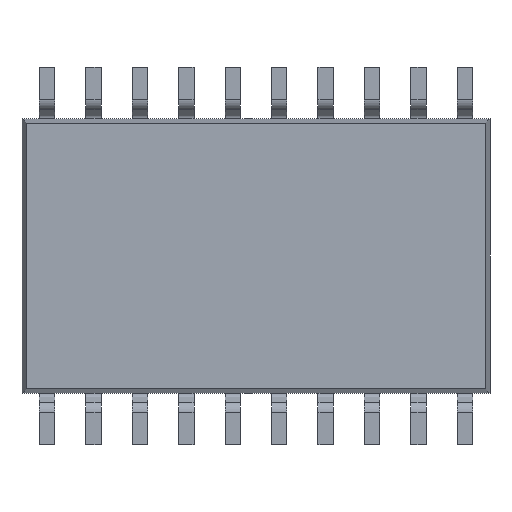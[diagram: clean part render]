
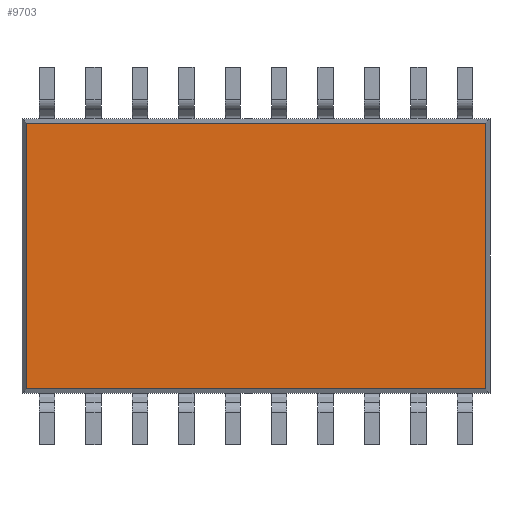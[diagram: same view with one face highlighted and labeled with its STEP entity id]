
A CAD part, front view. The second image highlights one B-rep face of the part: STEP entity #9703.
In plain terms, the highlighted planar face has unit normal (0, -1, 0).
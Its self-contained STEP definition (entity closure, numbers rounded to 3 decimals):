
#9664 = CARTESIAN_POINT ( 'NONE',  ( 6.285, 0.1, -3.635 ) ) ;
#9665 = VERTEX_POINT ( 'NONE', #9664 ) ;
#9666 = CARTESIAN_POINT ( 'NONE',  ( 6.285, 0.1, 3.635 ) ) ;
#9667 = VERTEX_POINT ( 'NONE', #9666 ) ;
#9668 = CARTESIAN_POINT ( 'NONE',  ( 6.285, 0.1, 0. ) ) ;
#9669 = DIRECTION ( 'NONE',  ( 0., 0., 1. ) ) ;
#9670 = VECTOR ( 'NONE', #9669, 1000. ) ;
#9671 = LINE ( 'NONE', #9668, #9670 ) ;
#9672 = EDGE_CURVE ( 'NONE', #9665, #9667, #9671, .T. ) ;
#9673 = ORIENTED_EDGE ( 'NONE', *, *, #9672, .T. ) ;
#9674 = CARTESIAN_POINT ( 'NONE',  ( -6.285, 0.1, 3.635 ) ) ;
#9675 = VERTEX_POINT ( 'NONE', #9674 ) ;
#9676 = CARTESIAN_POINT ( 'NONE',  ( 0., 0.1, 3.635 ) ) ;
#9677 = DIRECTION ( 'NONE',  ( -1., 0., 0. ) ) ;
#9678 = VECTOR ( 'NONE', #9677, 1000. ) ;
#9679 = LINE ( 'NONE', #9676, #9678 ) ;
#9680 = EDGE_CURVE ( 'NONE', #9667, #9675, #9679, .T. ) ;
#9681 = ORIENTED_EDGE ( 'NONE', *, *, #9680, .T. ) ;
#9682 = CARTESIAN_POINT ( 'NONE',  ( -6.285, 0.1, -3.635 ) ) ;
#9683 = VERTEX_POINT ( 'NONE', #9682 ) ;
#9684 = CARTESIAN_POINT ( 'NONE',  ( -6.285, 0.1, 0. ) ) ;
#9685 = DIRECTION ( 'NONE',  ( 0., 0., -1. ) ) ;
#9686 = VECTOR ( 'NONE', #9685, 1000. ) ;
#9687 = LINE ( 'NONE', #9684, #9686 ) ;
#9688 = EDGE_CURVE ( 'NONE', #9675, #9683, #9687, .T. ) ;
#9689 = ORIENTED_EDGE ( 'NONE', *, *, #9688, .T. ) ;
#9690 = CARTESIAN_POINT ( 'NONE',  ( 0., 0.1, -3.635 ) ) ;
#9691 = DIRECTION ( 'NONE',  ( 1., 0., 0. ) ) ;
#9692 = VECTOR ( 'NONE', #9691, 1000. ) ;
#9693 = LINE ( 'NONE', #9690, #9692 ) ;
#9694 = EDGE_CURVE ( 'NONE', #9683, #9665, #9693, .T. ) ;
#9695 = ORIENTED_EDGE ( 'NONE', *, *, #9694, .T. ) ;
#9696 = EDGE_LOOP ( 'NONE', ( #9673, #9681, #9689, #9695 ) ) ;
#9697 = FACE_OUTER_BOUND ( 'NONE', #9696, .T. ) ;
#9698 = CARTESIAN_POINT ( 'NONE',  ( 0., 0.1, 0. ) ) ;
#9699 = DIRECTION ( 'NONE',  ( 0., 1., 0. ) ) ;
#9700 = DIRECTION ( 'NONE',  ( 0., 0., 1. ) ) ;
#9701 = AXIS2_PLACEMENT_3D ( 'NONE', #9698, #9699, #9700 ) ;
#9702 = PLANE ( 'NONE', #9701 ) ;
#9703 = ADVANCED_FACE ( 'NONE', ( #9697 ), #9702, .F. ) ;
